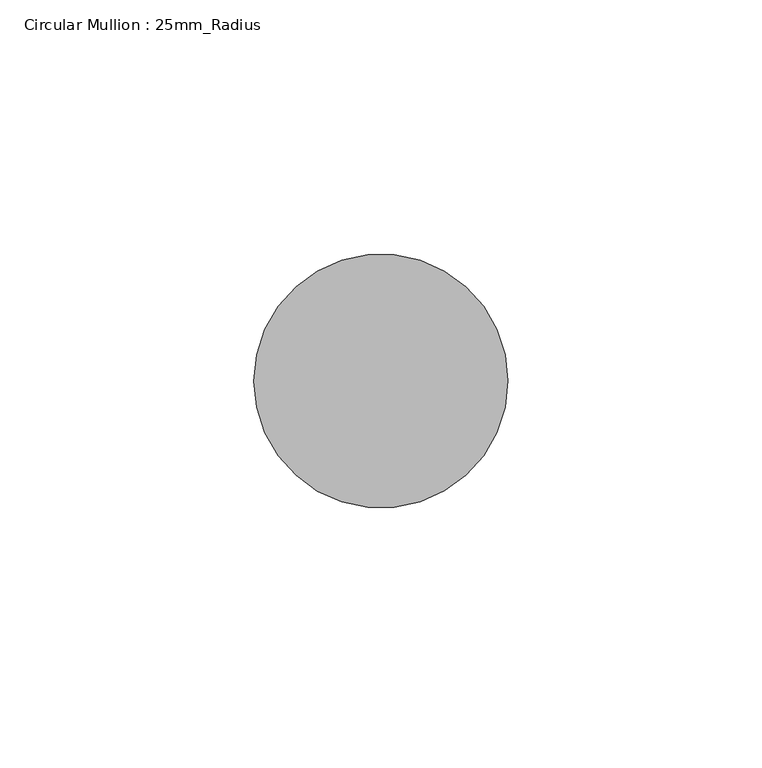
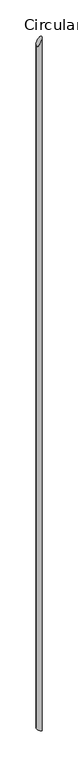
"""IFC4 building model written with IfcOpenShell, lengths in millimetres: member geometry, Circular Mullion : 25mm_Radius."""

from ifc_helpers import new_model, si_unit, frame, origin, place, context, project, spatial, ellipse_curve, source, transform, mapped, element, save
from ifc_brep_helpers import plane_surface, cylinder_surface, advanced_brep


def circular_mullion_25mm_radius_f9c3d323(model_context):
    return source(origin(), model_context, "Body", "AdvancedBrep", [
        advanced_brep(
        [(-50.0, 0.0, -82.5554163), (0.0, 0.0, 0.0), (0.0, 0.0, -6824.1270927), (-50.0, 0.0, -6794.0260027)],
        [
            (0, 1, ellipse_curve(frame((-25.0, 0.0, -41.2777082), z_axis=(0.8553520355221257, 0.0, -0.5180471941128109), x_axis=(0.5180471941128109, 0.0, 0.8553520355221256)), 48.2581515, 25.0)),
            (1, 2),
            (2, 3, ellipse_curve(frame((-25.0, 0.0, -6809.0765477), z_axis=(0.5157688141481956, 0.0, 0.8567278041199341), x_axis=(-0.8567278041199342, 0.0, 0.5157688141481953)), 29.1807968, 25.0)),
            (3, 0),
            (1, 0, ellipse_curve(frame((-25.0, 0.0, -41.2777082), z_axis=(0.8553520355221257, 0.0, -0.5180471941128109), x_axis=(0.5180471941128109, 0.0, 0.8553520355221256)), 48.2581515, 25.0)),
            (3, 2, ellipse_curve(frame((-25.0, 0.0, -6809.0765477), z_axis=(0.5157688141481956, 0.0, 0.8567278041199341), x_axis=(-0.8567278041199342, 0.0, 0.5157688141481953)), 29.1807968, 25.0)),
        ],
        [
            cylinder_surface(frame((-25.0, 0.0, 0.0), z_axis=(0.0, 0.0, 1.0), x_axis=(1.0, 0.0, 0.0)), 25.0),
            plane_surface(frame((0.0, -304.8, 0.0), z_axis=(-0.8553520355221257, 0.0, 0.5180471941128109), x_axis=(-0.5180471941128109, 0.0, -0.8553520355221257))),
            plane_surface(frame((0.0, -304.8, -6824.1270927), z_axis=(-0.5157688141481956, 0.0, -0.8567278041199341), x_axis=(-0.8567278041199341, 0.0, 0.5157688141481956))),
        ],
        [
            (0, [[1, 2, 3, 4]]),
            (0, [[5, -4, 6, -2]]),
            (1, [[-1, -5]]),
            (2, [[-6, -3]]),
        ],
    ),
    ])


if __name__ == "__main__":
    model = new_model("IFC4")
    model_context = context("Model", 3, world=origin())
    ifc_project = project(units=[si_unit("LENGTHUNIT", "METRE", prefix="MILLI")], contexts=[model_context])
    site = spatial("IfcSite", under=ifc_project)
    building = spatial("IfcBuilding", under=site)
    placement = place(None, origin())
    circular_mullion_25mm_radius_shape = circular_mullion_25mm_radius_f9c3d323(model_context)
    element("IfcMember", 1, ObjectType="Circular Mullion : 25mm_Radius", at=placement, inside=building, context=model_context, shape_type="MappedRepresentation", body=[
        mapped(circular_mullion_25mm_radius_shape, transform((0.0, 0.0, 0.0), x_axis=(1.0, 0.0, 0.0), y_axis=(0.0, 1.0, 0.0), z_axis=(0.0, 0.0, 1.0))),
    ])
    save(model, "model.ifc")
